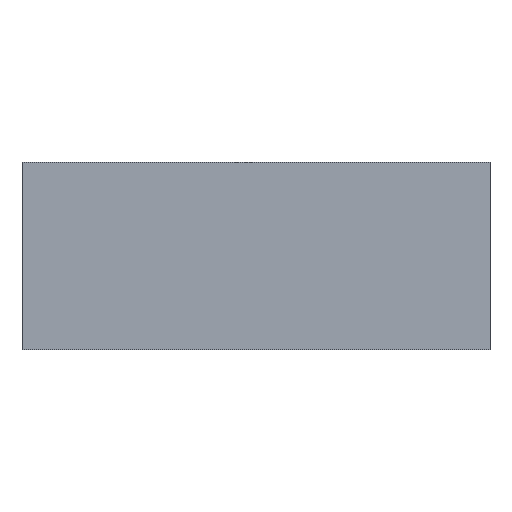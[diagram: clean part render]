
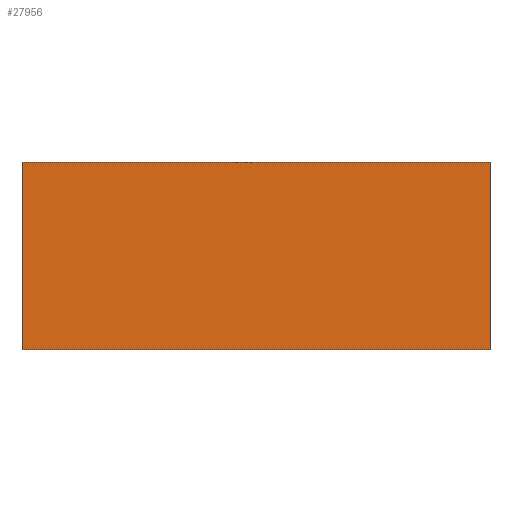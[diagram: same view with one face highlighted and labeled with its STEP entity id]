
A CAD part, top view. The second image highlights one B-rep face of the part: STEP entity #27956.
In plain terms, the highlighted planar face has unit normal (0, 0, 1).
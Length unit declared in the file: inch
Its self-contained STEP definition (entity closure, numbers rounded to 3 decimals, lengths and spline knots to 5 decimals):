
#16199=VERTEX_POINT($,#35214);
#16200=VERTEX_POINT($,#35215);
#16201=VERTEX_POINT($,#35217);
#16202=VERTEX_POINT($,#35219);
#17583=VECTOR($,#30670,1.);
#17584=VECTOR($,#30671,1.);
#17585=VECTOR($,#30672,1.);
#17586=VECTOR($,#30673,1.);
#19857=LINE($,#35213,#17583);
#19858=LINE($,#35216,#17584);
#19859=LINE($,#35218,#17585);
#19860=LINE($,#35220,#17586);
#21605=EDGE_CURVE($,#16199,#16200,#19857,.T.);
#21606=EDGE_CURVE($,#16200,#16201,#19858,.T.);
#21607=EDGE_CURVE($,#16201,#16202,#19859,.T.);
#21608=EDGE_CURVE($,#16202,#16199,#19860,.T.);
#24569=ORIENTED_EDGE($,*,*,#21605,.T.);
#24570=ORIENTED_EDGE($,*,*,#21606,.T.);
#24571=ORIENTED_EDGE($,*,*,#21607,.T.);
#24572=ORIENTED_EDGE($,*,*,#21608,.T.);
#26365=EDGE_LOOP($,(#24569,#24570,#24571,#24572));
#27207=FACE_BOUND($,#26365,.T.);
#27956=ADVANCED_FACE($,(#27207),#28577,.T.);
#28577=PLANE($,#38152);
#30669=DIRECTION($,(0.,0.,1.));
#30670=DIRECTION($,(0.,1.,0.));
#30671=DIRECTION($,(-1.,0.,0.));
#30672=DIRECTION($,(0.,-1.,0.));
#30673=DIRECTION($,(1.,0.,0.));
#35212=CARTESIAN_POINT($,(0.,0.,0.87));
#35213=CARTESIAN_POINT($,(7.1785,0.,0.87));
#35214=CARTESIAN_POINT($,(7.1785,-2.8785,0.87));
#35215=CARTESIAN_POINT($,(7.1785,2.8785,0.87));
#35216=CARTESIAN_POINT($,(0.,2.8785,0.87));
#35217=CARTESIAN_POINT($,(-7.1785,2.8785,0.87));
#35218=CARTESIAN_POINT($,(-7.1785,0.,0.87));
#35219=CARTESIAN_POINT($,(-7.1785,-2.8785,0.87));
#35220=CARTESIAN_POINT($,(0.,-2.8785,0.87));
#38152=AXIS2_PLACEMENT_3D($,#35212,#30669,$);
